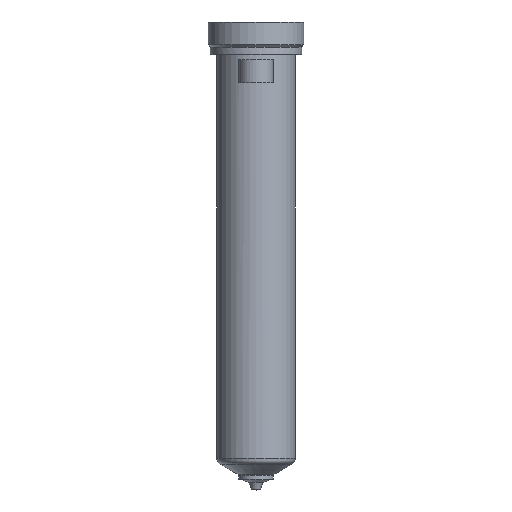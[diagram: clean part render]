
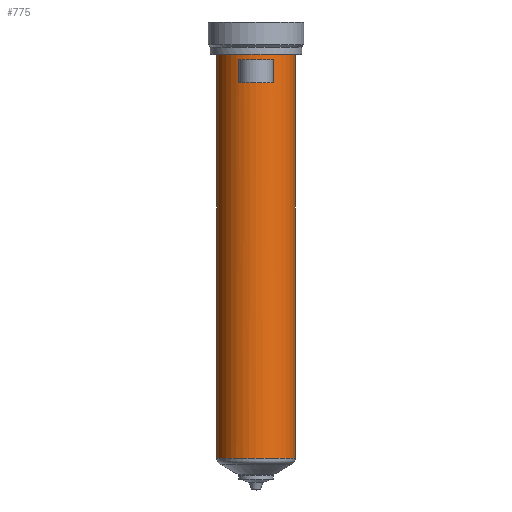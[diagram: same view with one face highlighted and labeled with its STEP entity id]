
A CAD part, top view. The second image highlights one B-rep face of the part: STEP entity #775.
In plain terms, the highlighted cylindrical face has radius 18 mm (diameter 36 mm), a partial arc.
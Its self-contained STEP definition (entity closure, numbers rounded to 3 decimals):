
#187=DIRECTION('',(0.,-1.,0.));
#188=VECTOR('',#187,185.506);
#189=CARTESIAN_POINT('',(18.,0.,0.));
#190=LINE('',#189,#188);
#191=CARTESIAN_POINT('',(0.,-185.506,0.));
#192=DIRECTION('',(0.,1.,0.));
#193=DIRECTION('',(-1.,0.,0.));
#194=AXIS2_PLACEMENT_3D('',#191,#192,#193);
#196=DIRECTION('',(0.,1.,0.));
#197=VECTOR('',#196,185.506);
#198=CARTESIAN_POINT('',(-18.,-185.506,0.));
#199=LINE('',#198,#197);
#200=CARTESIAN_POINT('',(0.,0.,0.));
#201=DIRECTION('',(0.,1.,0.));
#202=DIRECTION('',(-1.,0.,0.));
#203=AXIS2_PLACEMENT_3D('',#200,#201,#202);
#349=DIRECTION('',(0.,-1.,0.));
#350=VECTOR('',#349,10.5);
#351=CARTESIAN_POINT('',(-8.,-2.5,16.125));
#352=LINE('',#351,#350);
#353=CARTESIAN_POINT('',(0.,-13.,0.));
#354=DIRECTION('',(0.,1.,0.));
#355=DIRECTION('',(-0.444,0.,0.896));
#356=AXIS2_PLACEMENT_3D('',#353,#354,#355);
#379=CARTESIAN_POINT('',(0.,-2.5,0.));
#380=DIRECTION('',(0.,-1.,0.));
#381=DIRECTION('',(0.444,0.,0.896));
#382=AXIS2_PLACEMENT_3D('',#379,#380,#381);
#397=DIRECTION('',(0.,-1.,0.));
#398=VECTOR('',#397,10.5);
#399=CARTESIAN_POINT('',(8.,-2.5,16.125));
#400=LINE('',#399,#398);
#458=CARTESIAN_POINT('',(-18.,0.,0.));
#459=CARTESIAN_POINT('',(18.,0.,0.));
#460=VERTEX_POINT('',#458);
#461=VERTEX_POINT('',#459);
#470=CARTESIAN_POINT('',(-8.,-2.5,16.125));
#471=VERTEX_POINT('',#470);
#472=CARTESIAN_POINT('',(8.,-2.5,16.125));
#473=VERTEX_POINT('',#472);
#506=CARTESIAN_POINT('',(18.,-185.506,0.));
#507=VERTEX_POINT('',#506);
#516=CARTESIAN_POINT('',(-18.,-185.506,0.));
#517=VERTEX_POINT('',#516);
#534=CARTESIAN_POINT('',(-8.,-13.,16.125));
#535=CARTESIAN_POINT('',(8.,-13.,16.125));
#536=VERTEX_POINT('',#534);
#537=VERTEX_POINT('',#535);
#753=CARTESIAN_POINT('',(0.,16.4,0.));
#754=DIRECTION('',(0.,-1.,0.));
#755=DIRECTION('',(-1.,0.,0.));
#756=AXIS2_PLACEMENT_3D('',#753,#754,#755);
#757=CYLINDRICAL_SURFACE('',#756,18.);
#758=ORIENTED_EDGE('',*,*,#747,.T.);
#760=ORIENTED_EDGE('',*,*,#759,.F.);
#761=ORIENTED_EDGE('',*,*,#743,.T.);
#762=ORIENTED_EDGE('',*,*,#733,.T.);
#763=EDGE_LOOP('',(#758,#760,#761,#762));
#764=FACE_OUTER_BOUND('',#763,.F.);
#766=ORIENTED_EDGE('',*,*,#765,.T.);
#768=ORIENTED_EDGE('',*,*,#767,.T.);
#770=ORIENTED_EDGE('',*,*,#769,.F.);
#772=ORIENTED_EDGE('',*,*,#771,.T.);
#773=EDGE_LOOP('',(#766,#768,#770,#772));
#774=FACE_BOUND('',#773,.F.);
#775=ADVANCED_FACE('',(#764,#774),#757,.T.);
#195=CIRCLE('',#194,18.);
#204=CIRCLE('',#203,18.);
#357=CIRCLE('',#356,18.);
#383=CIRCLE('',#382,18.);
#733=EDGE_CURVE('',#460,#461,#204,.T.);
#743=EDGE_CURVE('',#517,#460,#199,.T.);
#747=EDGE_CURVE('',#461,#507,#190,.T.);
#759=EDGE_CURVE('',#517,#507,#195,.T.);
#765=EDGE_CURVE('',#471,#536,#352,.T.);
#767=EDGE_CURVE('',#536,#537,#357,.T.);
#769=EDGE_CURVE('',#473,#537,#400,.T.);
#771=EDGE_CURVE('',#473,#471,#383,.T.);
